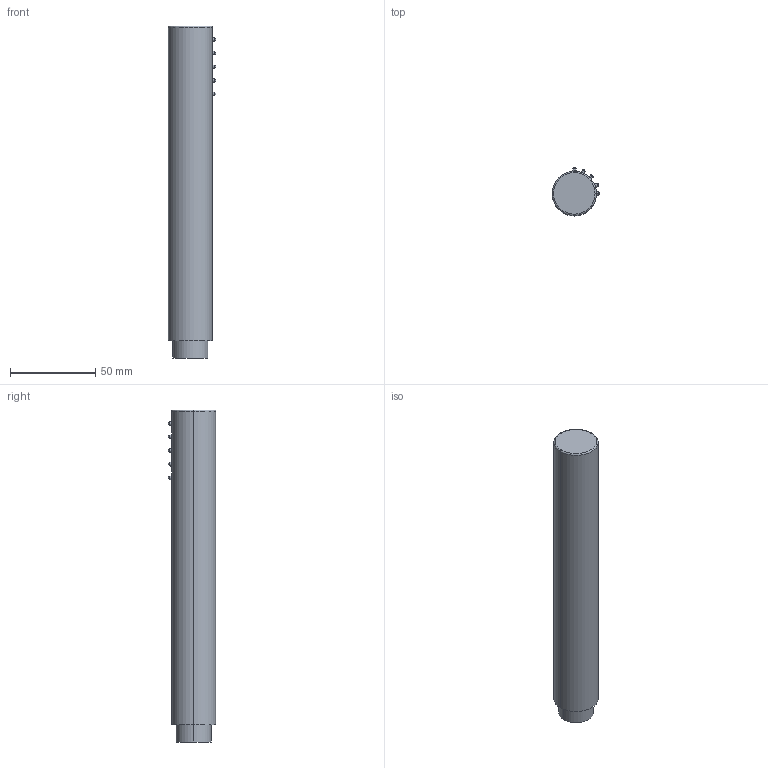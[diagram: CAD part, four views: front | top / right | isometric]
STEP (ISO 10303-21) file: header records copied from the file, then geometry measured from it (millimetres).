
FILE_DESCRIPTION (( 'STEP AP203' ), '1' );
FILE_NAME ('DOC8.STEP', '2017-01-16T07:37:19', ( '' ), ( '' ), 'SwSTEP 2.0', 'SolidWorks 2014', '' );
FILE_SCHEMA (( 'CONFIG_CONTROL_DESIGN' ));
Length unit declared in the file: millimetre
Products named in the file (1): DOC8
Bounding box: 28 x 28 x 195 mm (x, y, z)
Volume: 96384.2 mm3; surface area: 18500 mm2
Topology: 6 solids, 6 shells, 142 faces, 272 edges, 164 vertices
Faces by surface type: cylinder 56, cone 50, plane 34, torus 2
Entity records: 4193 total; most frequent: CARTESIAN_POINT 1219, DIRECTION 644, ORIENTED_EDGE 544, EDGE_CURVE 272, AXIS2_PLACEMENT_3D 269, VERTEX_POINT 164, EDGE_LOOP 164, FACE_OUTER_BOUND 142
